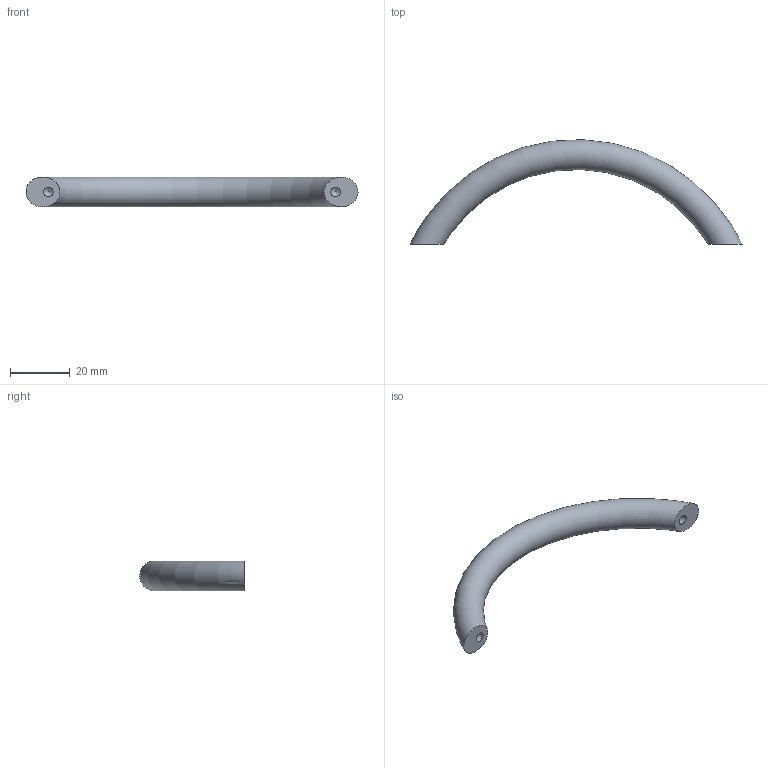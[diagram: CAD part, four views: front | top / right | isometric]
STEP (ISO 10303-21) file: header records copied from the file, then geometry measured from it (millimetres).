
FILE_DESCRIPTION( ( 'STEP AP203' ), '1' );
FILE_NAME( 'C:/Temp/Ganter_Step_05_03_2020/data/1_2/gn424_1/Arch handle GN 424.1-10-96-SW.stp', '2020-03-05T10:12:25', ( 'License CC BY-ND 4.0' ), ( 'CADENAS' ), ' ', 'PARTsolutions', ' ' );
FILE_SCHEMA( ( 'CONFIG_CONTROL_DESIGN' ) );
Length unit declared in the file: millimetre
Products named in the file (1): _Arch handle GN 424.1-10-96-SW
Bounding box: 111 x 34.96 x 10 mm (x, y, z)
Volume: 9513.5 mm3; surface area: 4132.2 mm2
Topology: 1 solids, 1 shells, 7 faces, 14 edges, 9 vertices
Faces by surface type: cone 2, cylinder 2, plane 2, torus 1
Full cylindrical faces by diameter (mm): 3.242 x2
Entity records: 326 total; most frequent: CARTESIAN_POINT 168, DIRECTION 24, AXIS2_PLACEMENT_3D 12, EDGE_LOOP 12, ORIENTED_EDGE 12, FACE_OUTER_BOUND 10, VERTEX_POINT 8, ADVANCED_FACE 7
